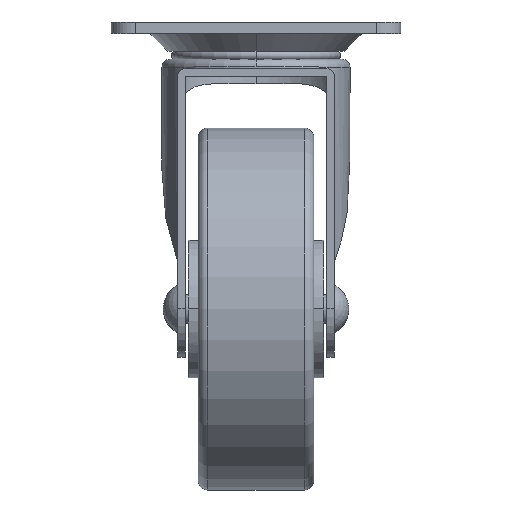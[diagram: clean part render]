
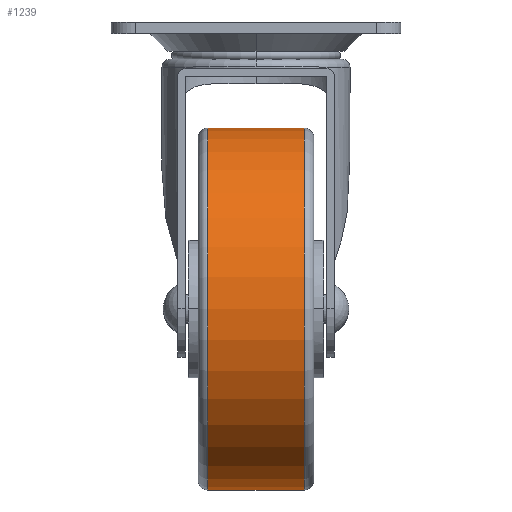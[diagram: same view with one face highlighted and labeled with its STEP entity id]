
A CAD part, top view. The second image highlights one B-rep face of the part: STEP entity #1239.
In plain terms, the highlighted cylindrical face has radius 37.5 mm (diameter 75 mm), a partial arc.
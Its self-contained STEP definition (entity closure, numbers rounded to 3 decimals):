
#55 = LINE ( 'NONE', #2462, #758 ) ;
#69 = CARTESIAN_POINT ( 'NONE',  ( 0., 0., 0. ) ) ;
#248 = LINE ( 'NONE', #3926, #1681 ) ;
#280 = EDGE_CURVE ( 'NONE', #3648, #2153, #248, .T. ) ;
#295 = DIRECTION ( 'NONE',  ( 0., -1., 0. ) ) ;
#340 = CARTESIAN_POINT ( 'NONE',  ( -10., -37.5, 0. ) ) ;
#434 = CYLINDRICAL_SURFACE ( 'NONE', #3871, 37.5 ) ;
#493 = EDGE_LOOP ( 'NONE', ( #4293, #2010, #807, #4194 ) ) ;
#526 = VERTEX_POINT ( 'NONE', #340 ) ;
#531 = CARTESIAN_POINT ( 'NONE',  ( -10., 0., 0. ) ) ;
#758 = VECTOR ( 'NONE', #2365, 1000. ) ;
#807 = ORIENTED_EDGE ( 'NONE', *, *, #1959, .T. ) ;
#911 = AXIS2_PLACEMENT_3D ( 'NONE', #531, #3282, #4262 ) ;
#1239 = ADVANCED_FACE ( 'NONE', ( #3199 ), #434, .T. ) ;
#1318 = CARTESIAN_POINT ( 'NONE',  ( -10., 37.5, 0. ) ) ;
#1681 = VECTOR ( 'NONE', #3616, 1000. ) ;
#1755 = AXIS2_PLACEMENT_3D ( 'NONE', #4014, #3012, #295 ) ;
#1779 = EDGE_CURVE ( 'NONE', #3648, #526, #2112, .T. ) ;
#1959 = EDGE_CURVE ( 'NONE', #2070, #2153, #3619, .T. ) ;
#2010 = ORIENTED_EDGE ( 'NONE', *, *, #2458, .T. ) ;
#2070 = VERTEX_POINT ( 'NONE', #3876 ) ;
#2112 = CIRCLE ( 'NONE', #911, 37.5 ) ;
#2153 = VERTEX_POINT ( 'NONE', #3508 ) ;
#2212 = DIRECTION ( 'NONE',  ( 1., 0., 0. ) ) ;
#2365 = DIRECTION ( 'NONE',  ( 1., 0., 0. ) ) ;
#2458 = EDGE_CURVE ( 'NONE', #526, #2070, #55, .T. ) ;
#2462 = CARTESIAN_POINT ( 'NONE',  ( 0., -37.5, 0. ) ) ;
#2839 = DIRECTION ( 'NONE',  ( 0., 1., 0. ) ) ;
#3012 = DIRECTION ( 'NONE',  ( -1., 0., 0. ) ) ;
#3199 = FACE_OUTER_BOUND ( 'NONE', #493, .T. ) ;
#3282 = DIRECTION ( 'NONE',  ( 1., 0., 0. ) ) ;
#3508 = CARTESIAN_POINT ( 'NONE',  ( 10., 37.5, 0. ) ) ;
#3616 = DIRECTION ( 'NONE',  ( 1., 0., 0. ) ) ;
#3619 = CIRCLE ( 'NONE', #1755, 37.5 ) ;
#3648 = VERTEX_POINT ( 'NONE', #1318 ) ;
#3871 = AXIS2_PLACEMENT_3D ( 'NONE', #69, #2212, #2839 ) ;
#3876 = CARTESIAN_POINT ( 'NONE',  ( 10., -37.5, 0. ) ) ;
#3926 = CARTESIAN_POINT ( 'NONE',  ( 0., 37.5, 0. ) ) ;
#4014 = CARTESIAN_POINT ( 'NONE',  ( 10., 0., 0. ) ) ;
#4194 = ORIENTED_EDGE ( 'NONE', *, *, #280, .F. ) ;
#4262 = DIRECTION ( 'NONE',  ( 0., 1., 0. ) ) ;
#4293 = ORIENTED_EDGE ( 'NONE', *, *, #1779, .T. ) ;
